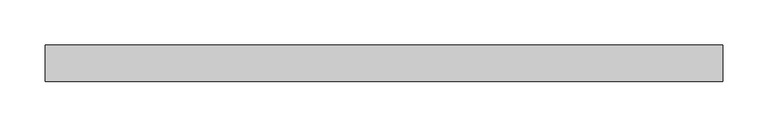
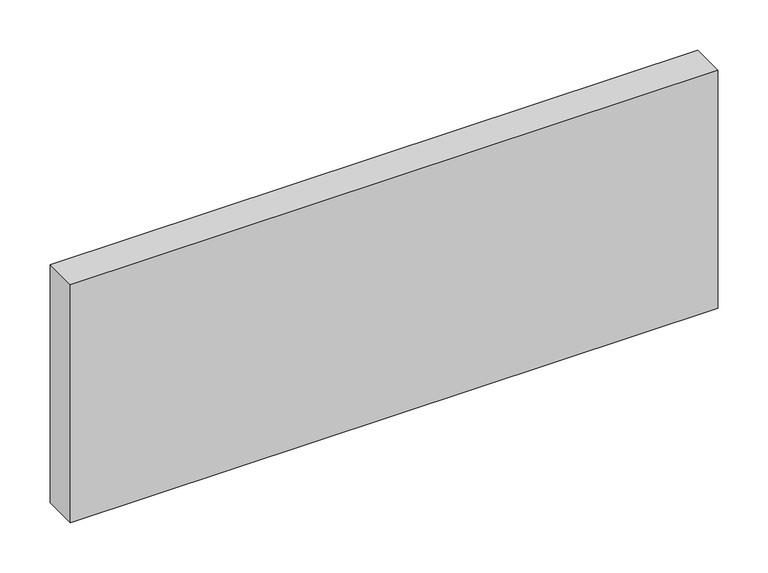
"""IFC4 building model written with IfcOpenShell, lengths in millimetres: plate geometry, Panneau système vide : Epaiss. 4cm."""

from ifc_helpers import new_model, si_unit, origin, origin_with_axes, place, context, project, spatial, polyline, outline, extrude, source, transform, mapped, element, save


def plate_251827d1(model_context):
    return source(origin(), model_context, "Body", "SweptSolid", [
        extrude(outline(polyline([(372.3, -20.0), (-372.3, -20.0), (-372.3, 20.0), (372.3, 20.0), (372.3, -20.0)])), origin_with_axes(), (0.0, 0.0, 1.0), 289.482842),
    ])


if __name__ == "__main__":
    model = new_model("IFC4")
    model_context = context("Model", 3, world=origin())
    ifc_project = project(units=[si_unit("LENGTHUNIT", "METRE", prefix="MILLI")], contexts=[model_context])
    site = spatial("IfcSite", under=ifc_project)
    building = spatial("IfcBuilding", under=site)
    placement = place(None, origin())
    plate_shape = plate_251827d1(model_context)
    element("IfcPlate", 1, ObjectType="Panneau système vide : Epaiss. 4cm", at=placement, inside=building, context=model_context, shape_type="MappedRepresentation", body=[
        mapped(plate_shape, transform((0.0, 0.0, 0.0), x_axis=(1.0, 0.0, 0.0), y_axis=(0.0, 1.0, 0.0), z_axis=(0.0, 0.0, 1.0))),
    ])
    save(model, "model.ifc")
